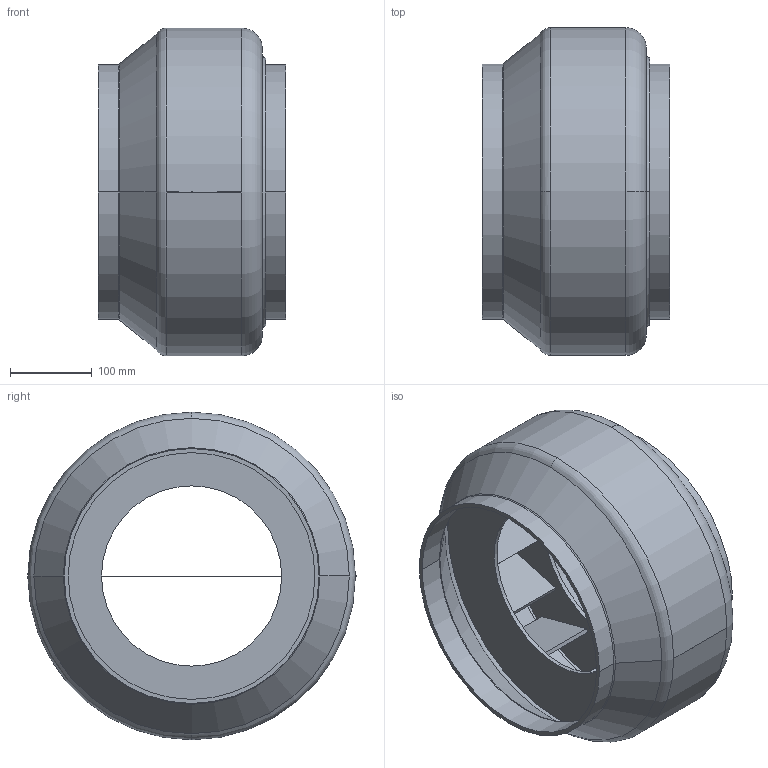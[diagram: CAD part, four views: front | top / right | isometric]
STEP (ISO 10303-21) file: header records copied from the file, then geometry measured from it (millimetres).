
FILE_DESCRIPTION(('STEP AP214'),'1');
FILE_NAME('5145880600.stp','2019-05-13T14:54:53',('TraceParts'),('TraceParts S.A.'),'Spatial InterOp 3D',' ',' ');
FILE_SCHEMA(('AUTOMOTIVE_DESIGN { 1 0 10303 214 1 1 1 1 }'));
Length unit declared in the file: millimetre
Products named in the file (1): 5145880600
Bounding box: 230 x 402 x 401 mm (x, y, z)
Volume: 2947275.8 mm3; surface area: 1116475.6 mm2
Topology: 1 solids, 1 shells, 107 faces, 298 edges, 199 vertices
Faces by surface type: plane 59, cylinder 28, torus 16, cone 4
Entity records: 4749 total; most frequent: CARTESIAN_POINT 966, DIRECTION 615, ORIENTED_EDGE 596, EDGE_CURVE 298, AXIS2_PLACEMENT_3D 218, VERTEX_POINT 199, LINE 179, VECTOR 179
